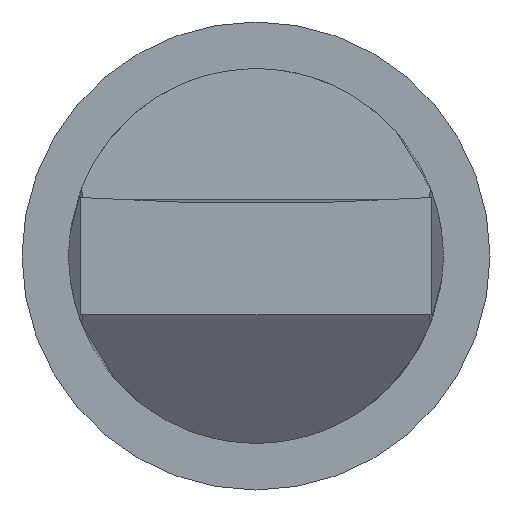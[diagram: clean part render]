
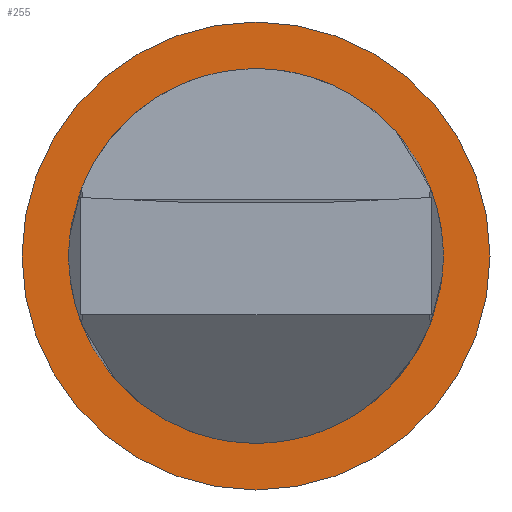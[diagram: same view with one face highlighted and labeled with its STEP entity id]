
A CAD part, left-side view. The second image highlights one B-rep face of the part: STEP entity #255.
In plain terms, the highlighted planar face has unit normal (-1, 0, 0).
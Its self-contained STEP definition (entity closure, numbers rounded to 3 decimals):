
#255=ADVANCED_FACE('',(#449,#451),#453,.T.);
#449=FACE_BOUND('',#450,.T.);
#450=EDGE_LOOP('',(#567));
#451=FACE_BOUND('',#452,.T.);
#452=EDGE_LOOP('',(#568));
#453=PLANE('',#454);
#454=AXIS2_PLACEMENT_3D('',#455,#456,#457);
#455=CARTESIAN_POINT('',(-10.,0.,0.));
#456=DIRECTION('',(-1.,0.,0.));
#457=DIRECTION('',(0.,0.,1.));
#567=ORIENTED_EDGE('',*,*,#619,.T.);
#568=ORIENTED_EDGE('',*,*,#618,.F.);
#618=EDGE_CURVE('',#694,#694,#695,.T.);
#619=EDGE_CURVE('',#696,#696,#697,.T.);
#694=VERTEX_POINT('',#876);
#695=CIRCLE('',#877,7.75);
#696=VERTEX_POINT('',#881);
#697=CIRCLE('',#882,10.);
#876=CARTESIAN_POINT('',(-10.,0.,7.75));
#877=AXIS2_PLACEMENT_3D('',#878,#879,#880);
#878=CARTESIAN_POINT('',(-10.,0.,0.));
#879=DIRECTION('',(-1.,0.,0.));
#880=DIRECTION('',(0.,0.,1.));
#881=CARTESIAN_POINT('',(-10.,0.,10.));
#882=AXIS2_PLACEMENT_3D('',#883,#884,#885);
#883=CARTESIAN_POINT('',(-10.,0.,0.));
#884=DIRECTION('',(-1.,0.,0.));
#885=DIRECTION('',(0.,0.,1.));
